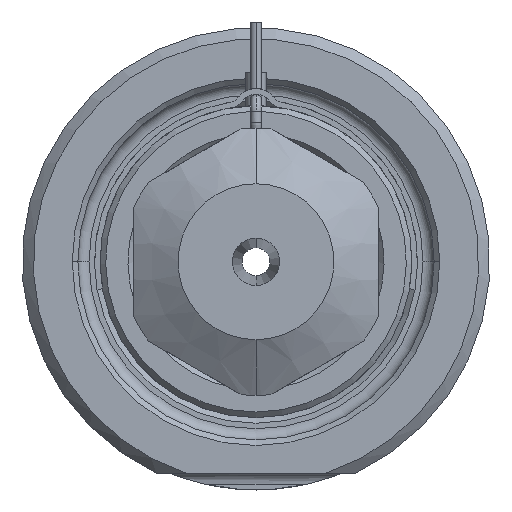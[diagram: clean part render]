
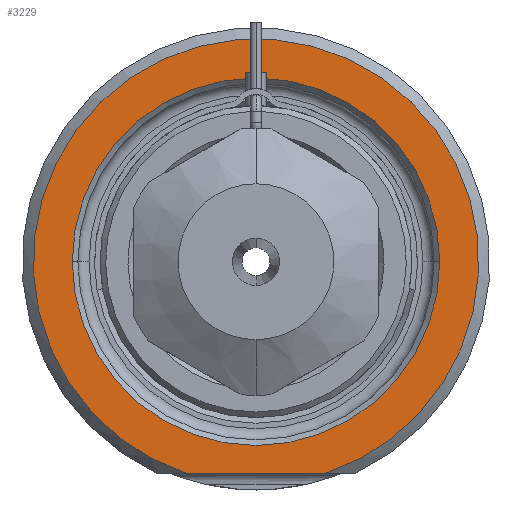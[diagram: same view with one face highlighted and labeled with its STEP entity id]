
A CAD part, front view. The second image highlights one B-rep face of the part: STEP entity #3229.
In plain terms, the highlighted planar face has unit normal (0, -1, 0).
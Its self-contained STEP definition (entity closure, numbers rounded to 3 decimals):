
#1=DIRECTION('',(1.,0.,0.));
#2=VECTOR('',#1,12.49);
#3=CARTESIAN_POINT('',(-6.245,0.,-19.));
#4=LINE('',#3,#2);
#5=CARTESIAN_POINT('',(0.,0.,0.));
#6=DIRECTION('',(0.,1.,0.));
#7=DIRECTION('',(-1.,0.,0.));
#8=AXIS2_PLACEMENT_3D('',#5,#6,#7);
#10=CARTESIAN_POINT('',(0.,0.,0.));
#11=DIRECTION('',(0.,1.,0.));
#12=DIRECTION('',(1.,0.,0.));
#13=AXIS2_PLACEMENT_3D('',#10,#11,#12);
#119=CARTESIAN_POINT('',(0.,0.,0.));
#120=DIRECTION('',(0.,-1.,0.));
#121=DIRECTION('',(0.312,0.,-0.95));
#122=AXIS2_PLACEMENT_3D('',#119,#120,#121);
#2682=CARTESIAN_POINT('',(-16.5,0.,0.));
#2683=CARTESIAN_POINT('',(16.5,0.,0.));
#2684=VERTEX_POINT('',#2682);
#2685=VERTEX_POINT('',#2683);
#2722=CARTESIAN_POINT('',(-6.245,0.,-19.));
#2723=CARTESIAN_POINT('',(6.245,0.,-19.));
#2724=VERTEX_POINT('',#2722);
#2725=VERTEX_POINT('',#2723);
#3212=CARTESIAN_POINT('',(0.,0.,0.));
#3213=DIRECTION('',(0.,-1.,0.));
#3214=DIRECTION('',(1.,0.,0.));
#3215=AXIS2_PLACEMENT_3D('',#3212,#3213,#3214);
#3216=PLANE('',#3215);
#3218=ORIENTED_EDGE('',*,*,#3217,.F.);
#3220=ORIENTED_EDGE('',*,*,#3219,.F.);
#3221=EDGE_LOOP('',(#3218,#3220));
#3222=FACE_OUTER_BOUND('',#3221,.F.);
#3224=ORIENTED_EDGE('',*,*,#3223,.F.);
#3226=ORIENTED_EDGE('',*,*,#3225,.F.);
#3227=EDGE_LOOP('',(#3224,#3226));
#3228=FACE_BOUND('',#3227,.F.);
#3229=ADVANCED_FACE('',(#3222,#3228),#3216,.T.);
#9=CIRCLE('',#8,16.5);
#14=CIRCLE('',#13,16.5);
#123=CIRCLE('',#122,20.);
#3217=EDGE_CURVE('',#2724,#2725,#4,.T.);
#3219=EDGE_CURVE('',#2725,#2724,#123,.T.);
#3223=EDGE_CURVE('',#2684,#2685,#9,.T.);
#3225=EDGE_CURVE('',#2685,#2684,#14,.T.);
